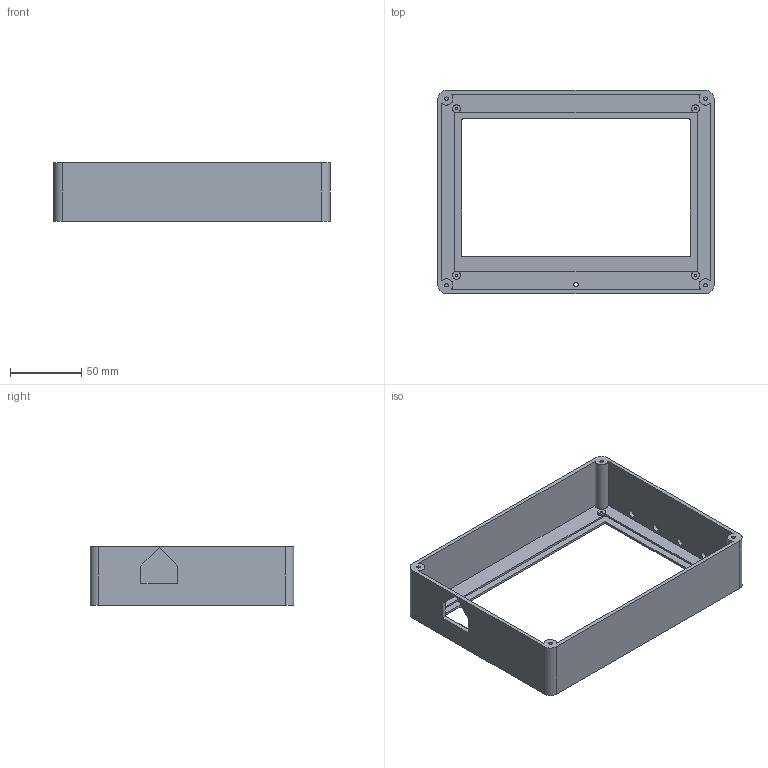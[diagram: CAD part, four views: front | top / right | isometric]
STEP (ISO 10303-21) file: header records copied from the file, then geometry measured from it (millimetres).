
FILE_DESCRIPTION(('Open CASCADE Model'),'2;1');
FILE_NAME('Open CASCADE Shape Model','2026-11-15T10:52:12',('Author'),( 'Open CASCADE'),'Open CASCADE STEP processor 7.8','Open CASCADE 7.8' ,'Unknown');
FILE_SCHEMA(('AUTOMOTIVE_DESIGN { 1 0 10303 214 1 1 1 1 }'));
Length unit declared in the file: millimetre
Products named in the file (1): Open CASCADE STEP translator 7.8 1
Bounding box: 194.2 x 143.2 x 41 mm (x, y, z)
Volume: 107145.3 mm3; surface area: 78104.7 mm2
Topology: 1 solids, 1 shells, 150 faces, 382 edges, 252 vertices
Faces by surface type: plane 77, extrusion 40, cylinder 33
Full cylindrical faces by diameter (mm): 1.7 x4, 2.5 x4, 3.2 x1, 5 x4, 5.6 x4
Entity records: 10622 total; most frequent: CARTESIAN_POINT 3223, DIRECTION 1234, VECTOR 830, LINE 790, ORIENTED_EDGE 764, PCURVE 764, DEFINITIONAL_REPRESENTATION 764, EDGE_CURVE 382
